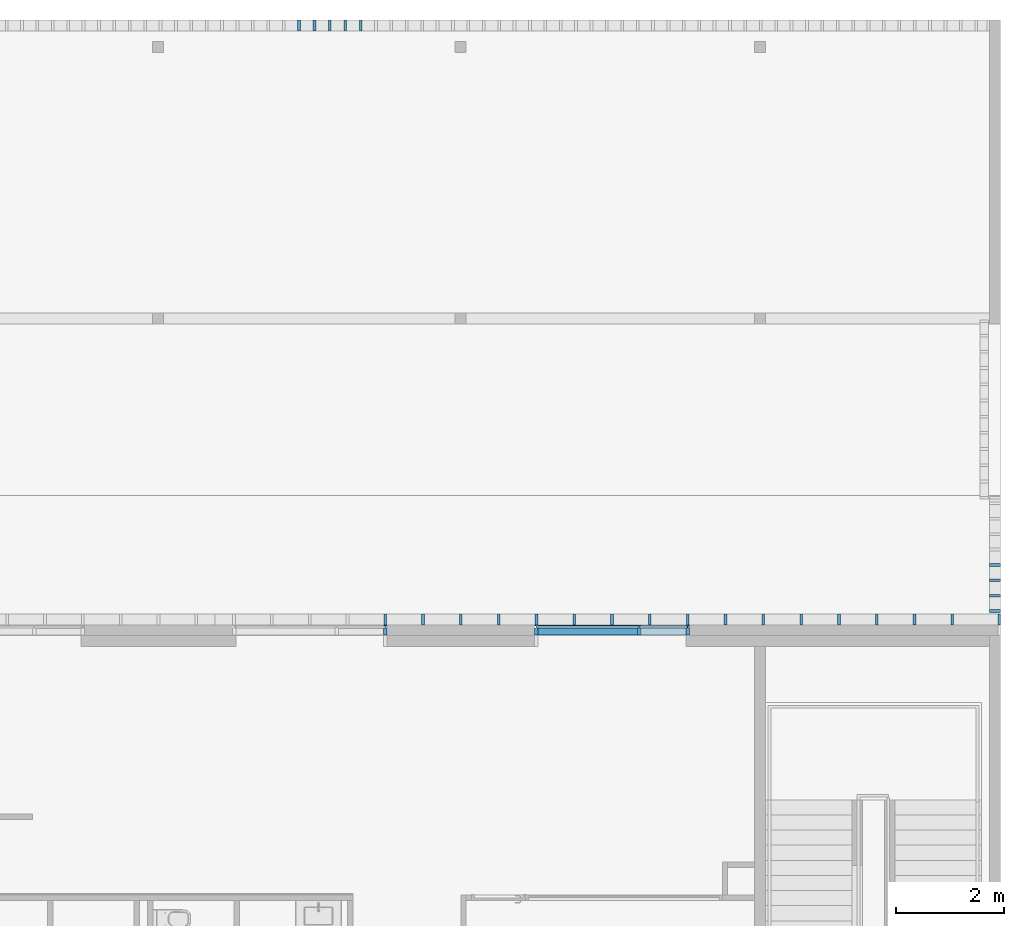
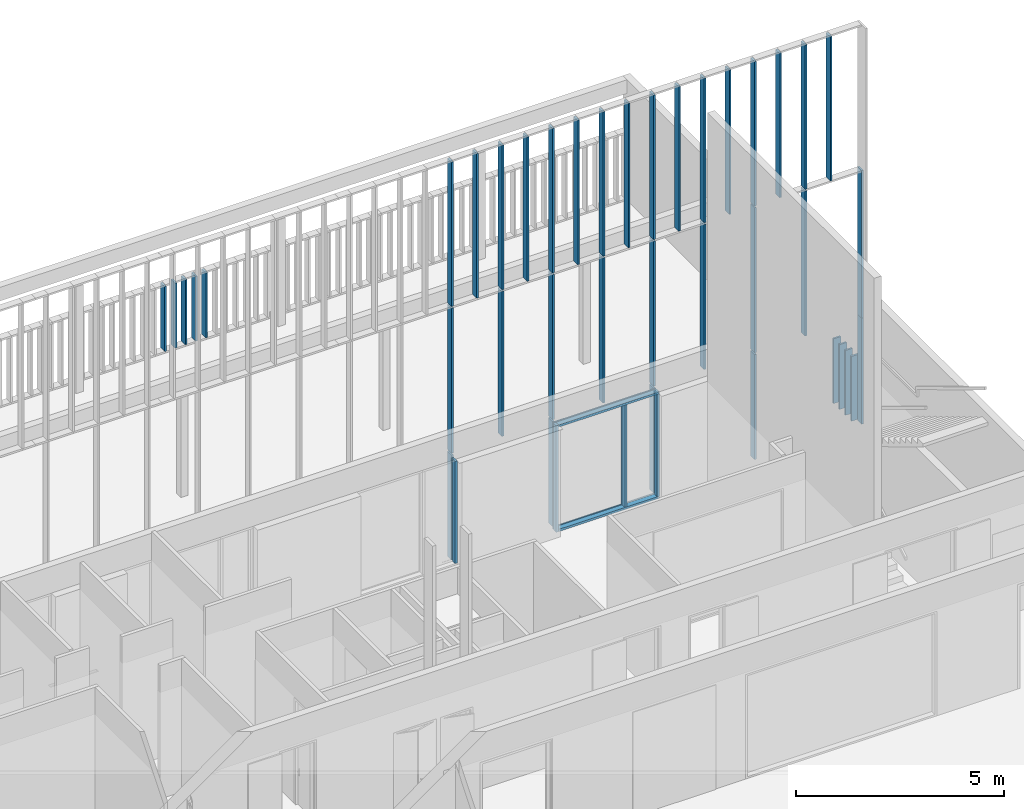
# One storey, part 29 of 240: 47 members, 5 elements without a shape of their own.
"""IFC2X3 building model written with IfcOpenShell, lengths in centimetres."""

from ifc_helpers import new_model, entity, si_unit, converted_unit, derived_unit, direction, frame, origin, origin_2d_with_axis, place, context, subcontext, project, spatial, polyline, rectangle, outline, extrude, source, transform, mapped, material, type_object, type_shapes, element, aggregate, save


model = new_model("IFC2X3")

# Units and contexts
model_context = context("Model", 3, precision=0.001, world=origin(), true_north=direction((6.12303176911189e-17, 1.0)))
body_context = subcontext(model_context, "Body", "Model", "MODEL_VIEW")
ifc_project = project(units=[si_unit("LENGTHUNIT", "METRE", prefix="CENTI"), si_unit("AREAUNIT", "SQUARE_METRE"), si_unit("VOLUMEUNIT", "CUBIC_METRE"), converted_unit("PLANEANGLEUNIT", "DEGREE", entity("IfcRatioMeasure", 0.0174532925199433), si_unit("PLANEANGLEUNIT", "RADIAN"), dimensions=[0, 0, 0, 0, 0, 0, 0]), si_unit("MASSUNIT", "GRAM", prefix="KILO"), derived_unit("MASSDENSITYUNIT", [(si_unit("MASSUNIT", "GRAM", prefix="KILO"), 1), (si_unit("LENGTHUNIT", "METRE"), -3)]), si_unit("TIMEUNIT", "SECOND"), si_unit("FREQUENCYUNIT", "HERTZ"), si_unit("THERMODYNAMICTEMPERATUREUNIT", "DEGREE_CELSIUS"), derived_unit("THERMALTRANSMITTANCEUNIT", [(si_unit("MASSUNIT", "GRAM", prefix="KILO"), 1), (si_unit("THERMODYNAMICTEMPERATUREUNIT", "KELVIN"), -1), (si_unit("TIMEUNIT", "SECOND"), -3)]), derived_unit("VOLUMETRICFLOWRATEUNIT", [(si_unit("LENGTHUNIT", "METRE"), 3), (si_unit("TIMEUNIT", "SECOND"), -1)]), si_unit("ELECTRICCURRENTUNIT", "AMPERE"), si_unit("ELECTRICVOLTAGEUNIT", "VOLT"), si_unit("POWERUNIT", "WATT"), si_unit("FORCEUNIT", "NEWTON", prefix="KILO"), si_unit("ILLUMINANCEUNIT", "LUX"), si_unit("LUMINOUSFLUXUNIT", "LUMEN"), si_unit("LUMINOUSINTENSITYUNIT", "CANDELA"), derived_unit("USERDEFINED", [(si_unit("MASSUNIT", "GRAM", prefix="KILO"), -1), (si_unit("LENGTHUNIT", "METRE"), -2), (si_unit("TIMEUNIT", "SECOND"), 3), (si_unit("LUMINOUSFLUXUNIT", "LUMEN"), 1)]), derived_unit("LINEARVELOCITYUNIT", [(si_unit("LENGTHUNIT", "METRE"), 1), (si_unit("TIMEUNIT", "SECOND"), -1)]), si_unit("PRESSUREUNIT", "PASCAL"), derived_unit("USERDEFINED", [(si_unit("LENGTHUNIT", "METRE"), -2), (si_unit("MASSUNIT", "GRAM", prefix="KILO"), 1), (si_unit("TIMEUNIT", "SECOND"), -2)])], contexts=[model_context])

# Site, building, storey
site_placement = place(None, frame((-2781.94577612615, 7442.24238424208, 0.0)))
site = spatial("IfcSite", under=ifc_project, at=site_placement, Name="Default", CompositionType="ELEMENT")
building_placement = place(site_placement, origin())
building = spatial("IfcBuilding", under=site, at=building_placement, CompositionType="ELEMENT")
storey_placement = place(building_placement, origin())
storey = spatial("IfcBuildingStorey", under=building, at=storey_placement, Name="N00 - COO", CompositionType="ELEMENT", Elevation=0.0)

# Curtain wall, members
curtain_wall_type_1 = type_object("IfcCurtainWallType", Name="Mur-rideau:07 - mur rideau trame 280 cm", PredefinedType="NOTDEFINED")
curtain_wall_1_placement = place(building_placement, origin())
curtain_wall_1 = element("IfcCurtainWall", 1, at=curtain_wall_1_placement, inside=storey, type_object=curtain_wall_type_1, Name="Mur-rideau:07 - mur rideau trame 280 cm", ObjectType="Mur-rideau:07 - mur rideau trame 280 cm")
ifc_material = material(Name="Aluminium")
member_type_1 = type_object("IfcMemberType", Name="150 x 25mm Détails", PredefinedType="MEMBER")
shared_shape_1 = source(origin(), body_context, "Body", "SweptSolid", [
    extrude(outline(polyline([(-5.66666666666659, -3.25), (-3.66666666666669, -3.25), (-3.66666666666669, -0.868749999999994), (-0.166666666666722, -0.868749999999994), (-0.166666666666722, -3.25000000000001), (13.3333333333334, -3.24999999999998), (13.3333333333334, 3.25000000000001), (-0.166666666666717, 3.25000000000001), (-0.166666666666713, 0.868749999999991), (-3.66666666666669, 0.868749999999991), (-3.66666666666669, 3.24999999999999), (-5.66666666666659, 3.24999999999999), (-5.66666666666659, -3.25)])), frame((-3.24999999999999, -1.96666666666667, -280.0), z_axis=(0.0, 0.0, 1.0), x_axis=(0.0, -1.0, 0.0)), (0.0, 0.0, 1.0), 280.00000003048),
])
type_shapes(member_type_1, [shared_shape_1])
member_1_placement = place(building_placement, frame((-966.049882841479, -1073.7999999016, 0.0), z_axis=(1.0, 0.0, 0.0), x_axis=(0.0, 0.0, -1.0)))
member_1 = element("IfcMember", 2, at=member_1_placement, type_object=member_type_1, material=ifc_material, Name="Meneau rectangulaire:150 x 25mm Détails", ObjectType="Meneau rectangulaire:150 x 25mm Détails", context=body_context, shape_type="MappedRepresentation", body=[
    mapped(shared_shape_1, transform((0.0, 0.0, 0.0), scale=1.0)),
])
member_type_2 = type_object("IfcMemberType", Name="150 x 25mm Détails", PredefinedType="MEMBER")
shared_shape_2 = source(origin(), body_context, "Body", "SweptSolid", [
    extrude(outline(polyline([(-5.6666666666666, -3.24999999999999), (-3.66666666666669, -3.24999999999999), (-3.66666666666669, -0.868749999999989), (-0.166666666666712, -0.868749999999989), (-0.166666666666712, -3.25000000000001), (13.3333333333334, -3.25000000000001), (13.3333333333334, 3.24999999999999), (-0.16666666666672, 3.24999999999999), (-0.16666666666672, 0.868749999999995), (-3.66666666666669, 0.868749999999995), (-3.66666666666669, 3.25), (-5.6666666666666, 3.25), (-5.6666666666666, -3.24999999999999)])), frame((-3.24999999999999, -1.96666666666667, -312.5), z_axis=(0.0, 0.0, 1.0), x_axis=(0.0, -1.0, 0.0)), (0.0, 0.0, 1.0), 312.5),
])
type_shapes(member_type_2, [shared_shape_2])
member_2_placement = place(building_placement, frame((-1252.54988284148, -1073.7999999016, 0.0), z_axis=(0.0, 0.0, -1.0), x_axis=(-1.0, 0.0, 0.0)))
member_2 = element("IfcMember", 3, at=member_2_placement, type_object=member_type_2, material=ifc_material, Name="Meneau rectangulaire:150 x 25mm Détails", ObjectType="Meneau rectangulaire:150 x 25mm Détails", context=body_context, shape_type="MappedRepresentation", body=[
    mapped(shared_shape_2, transform((0.0, 0.0, 0.0), scale=1.0)),
])
member_type_3 = type_object("IfcMemberType", Name="150 x 25mm Détails", PredefinedType="MEMBER")
shared_shape_3 = source(origin(), body_context, "Body", "SweptSolid", [
    extrude(outline(polyline([(-5.66666666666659, -3.25), (-3.66666666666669, -3.25), (-3.66666666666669, -0.868749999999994), (-0.166666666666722, -0.868749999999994), (-0.166666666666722, -3.25000000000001), (13.3333333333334, -3.24999999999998), (13.3333333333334, 3.25000000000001), (-0.166666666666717, 3.25000000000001), (-0.166666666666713, 0.868749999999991), (-3.66666666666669, 0.868749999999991), (-3.66666666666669, 3.24999999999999), (-5.66666666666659, 3.24999999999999), (-5.66666666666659, -3.25)])), frame((-3.24999999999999, -1.96666666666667, -299.5), z_axis=(0.0, 0.0, 1.0), x_axis=(0.0, -1.0, 0.0)), (0.0, 0.0, 1.0), 299.5),
])
type_shapes(member_type_3, [shared_shape_3])
member_3_placement = place(building_placement, frame((-966.049882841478, -1073.7999999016, 306.0)))
member_3 = element("IfcMember", 4, at=member_3_placement, type_object=member_type_3, material=ifc_material, Name="Meneau rectangulaire:150 x 25mm Détails", ObjectType="Meneau rectangulaire:150 x 25mm Détails", context=body_context, shape_type="MappedRepresentation", body=[
    mapped(shared_shape_3, transform((0.0, 0.0, 0.0), scale=1.0)),
])
member_4_placement = place(building_placement, frame((-1056.04988284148, -1073.7999999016, 306.0)))
member_4 = element("IfcMember", 5, at=member_4_placement, type_object=member_type_3, material=ifc_material, Name="Meneau rectangulaire:150 x 25mm Détails", ObjectType="Meneau rectangulaire:150 x 25mm Détails", context=body_context, shape_type="MappedRepresentation", body=[
    mapped(shared_shape_3, transform((0.0, 0.0, 0.0), scale=1.0)),
])

# Curtain wall, member
curtain_wall_2_placement = place(building_placement, origin())
curtain_wall_2 = element("IfcCurtainWall", 6, at=curtain_wall_2_placement, inside=storey, type_object=curtain_wall_type_1, Name="Mur-rideau:07 - mur rideau trame 280 cm", ObjectType="Mur-rideau:07 - mur rideau trame 280 cm")
member_5_placement = place(building_placement, frame((-1526.04988284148, -1073.7999999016, 306.0)))
member_5 = element("IfcMember", 7, at=member_5_placement, type_object=member_type_3, material=ifc_material, Name="Meneau rectangulaire:150 x 25mm Détails", ObjectType="Meneau rectangulaire:150 x 25mm Détails", context=body_context, shape_type="MappedRepresentation", body=[
    mapped(shared_shape_3, transform((0.0, 0.0, 0.0), scale=1.0)),
])

# Member
member_type_4 = type_object("IfcMemberType", Name="150 x 25mm Détails", PredefinedType="MEMBER")
shared_shape_4 = source(origin(), body_context, "Body", "SweptSolid", [
    extrude(outline(polyline([(-5.6666666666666, -3.24999999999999), (-3.66666666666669, -3.24999999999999), (-3.66666666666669, -0.868749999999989), (-0.166666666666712, -0.868749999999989), (-0.166666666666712, -3.25000000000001), (13.3333333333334, -3.25000000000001), (13.3333333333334, 3.24999999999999), (-0.16666666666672, 3.24999999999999), (-0.16666666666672, 0.868749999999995), (-3.66666666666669, 0.868749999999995), (-3.66666666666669, 3.25), (-5.6666666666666, 3.25), (-5.6666666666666, -3.24999999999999)])), frame((-3.24999999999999, -1.96666666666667, -299.5), z_axis=(0.0, 0.0, 1.0), x_axis=(0.0, -1.0, 0.0)), (0.0, 0.0, 1.0), 299.5),
])
type_shapes(member_type_4, [shared_shape_4])
member_6_placement = place(building_placement, frame((-972.549882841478, -1073.7999999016, 6.5), z_axis=(0.0, 0.0, -1.0), x_axis=(-1.0, 0.0, 0.0)))
member_6 = element("IfcMember", 8, at=member_6_placement, type_object=member_type_4, material=ifc_material, Name="Meneau rectangulaire:150 x 25mm Détails", ObjectType="Meneau rectangulaire:150 x 25mm Détails", context=body_context, shape_type="MappedRepresentation", body=[
    mapped(shared_shape_4, transform((0.0, 0.0, 0.0), scale=1.0)),
])

member_7_placement = place(building_placement, frame((-1532.54988284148, -1073.7999999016, 6.49999999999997), z_axis=(0.0, 0.0, -1.0), x_axis=(-1.0, 0.0, 0.0)))
member_7 = element("IfcMember", 9, at=member_7_placement, type_object=member_type_4, material=ifc_material, Name="Meneau rectangulaire:150 x 25mm Détails", ObjectType="Meneau rectangulaire:150 x 25mm Détails", context=body_context, shape_type="MappedRepresentation", body=[
    mapped(shared_shape_4, transform((0.0, 0.0, 0.0), scale=1.0)),
])

aggregate(curtain_wall_2, [member_5, member_7])

member_type_5 = type_object("IfcMemberType", Name="150 x 25mm Détails", PredefinedType="MEMBER")
shared_shape_5 = source(origin(), body_context, "Body", "SweptSolid", [
    extrude(outline(polyline([(-5.6666666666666, -3.24999999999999), (-3.66666666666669, -3.24999999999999), (-3.66666666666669, -0.868749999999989), (-0.166666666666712, -0.868749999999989), (-0.166666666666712, -3.25000000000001), (13.3333333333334, -3.25000000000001), (13.3333333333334, 3.24999999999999), (-0.16666666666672, 3.24999999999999), (-0.16666666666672, 0.868749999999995), (-3.66666666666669, 0.868749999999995), (-3.66666666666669, 3.25), (-5.6666666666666, 3.25), (-5.6666666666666, -3.24999999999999)])), frame((-3.24999999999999, -1.96666666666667, -280.0), z_axis=(0.0, 0.0, 1.0), x_axis=(0.0, -1.0, 0.0)), (0.0, 0.0, 1.0), 280.000000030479),
])
type_shapes(member_type_5, [shared_shape_5])
member_8_placement = place(building_placement, frame((-1246.04988287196, -1073.7999999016, 312.5), z_axis=(-1.0, 0.0, 0.0), x_axis=(0.0, 0.0, 1.0)))
member_8 = element("IfcMember", 10, at=member_8_placement, type_object=member_type_5, material=ifc_material, Name="Meneau rectangulaire:150 x 25mm Détails", ObjectType="Meneau rectangulaire:150 x 25mm Détails", context=body_context, shape_type="MappedRepresentation", body=[
    mapped(shared_shape_5, transform((0.0, 0.0, 0.0), scale=1.0)),
])

aggregate(curtain_wall_1, [member_1, member_2, member_3, member_4, member_6, member_8])

# Curtain wall, members
curtain_wall_type_2 = type_object("IfcCurtainWallType", Name="Mur-rideau:SR-Clôture", PredefinedType="NOTDEFINED")
curtain_wall_3_placement = place(building_placement, origin())
curtain_wall_3 = element("IfcCurtainWall", 11, at=curtain_wall_3_placement, inside=storey, type_object=curtain_wall_type_2, Name="Mur-rideau:SR-Clôture", ObjectType="Mur-rideau:SR-Clôture")
member_type_6 = type_object("IfcMemberType", Name="Epine nord (200x50 mm)", PredefinedType="MEMBER")
shared_shape_6 = source(origin(), body_context, "Body", "SweptSolid", [
    extrude(rectangle(XDim=20.0, YDim=5.0, at=origin_2d_with_axis()), frame((0.0, 0.0, -190.0), z_axis=(0.0, 0.0, 1.0), x_axis=(0.0, -1.0, 0.0)), (0.0, 0.0, 1.0), 190.0),
])
type_shapes(member_type_6, [shared_shape_6])
member_9_placement = place(building_placement, frame((-1688.99987965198, 40.0, 5.0), z_axis=(0.0, 0.0, -1.0), x_axis=(1.0, 0.0, 0.0)))
member_9 = element("IfcMember", 12, at=member_9_placement, type_object=member_type_6, material=ifc_material, Name="Meneau rectangulaire:Epine nord (200x50 mm)", ObjectType="Meneau rectangulaire:Epine nord (200x50 mm)", context=body_context, shape_type="MappedRepresentation", body=[
    mapped(shared_shape_6, transform((0.0, 0.0, 0.0), scale=1.0)),
])
member_10_placement = place(building_placement, frame((-1660.49987965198, 40.0, 5.0), z_axis=(0.0, 0.0, -1.0), x_axis=(1.0, 0.0, 0.0)))
member_10 = element("IfcMember", 13, at=member_10_placement, type_object=member_type_6, material=ifc_material, Name="Meneau rectangulaire:Epine nord (200x50 mm)", ObjectType="Meneau rectangulaire:Epine nord (200x50 mm)", context=body_context, shape_type="MappedRepresentation", body=[
    mapped(shared_shape_6, transform((0.0, 0.0, 0.0), scale=1.0)),
])
member_11_placement = place(building_placement, frame((-1631.99987965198, 40.0, 5.0), z_axis=(0.0, 0.0, -1.0), x_axis=(1.0, 0.0, 0.0)))
member_11 = element("IfcMember", 14, at=member_11_placement, type_object=member_type_6, material=ifc_material, Name="Meneau rectangulaire:Epine nord (200x50 mm)", ObjectType="Meneau rectangulaire:Epine nord (200x50 mm)", context=body_context, shape_type="MappedRepresentation", body=[
    mapped(shared_shape_6, transform((0.0, 0.0, 0.0), scale=1.0)),
])
member_12_placement = place(building_placement, frame((-1603.49987965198, 40.0, 5.0), z_axis=(0.0, 0.0, -1.0), x_axis=(1.0, 0.0, 0.0)))
member_12 = element("IfcMember", 15, at=member_12_placement, type_object=member_type_6, material=ifc_material, Name="Meneau rectangulaire:Epine nord (200x50 mm)", ObjectType="Meneau rectangulaire:Epine nord (200x50 mm)", context=body_context, shape_type="MappedRepresentation", body=[
    mapped(shared_shape_6, transform((0.0, 0.0, 0.0), scale=1.0)),
])
member_13_placement = place(building_placement, frame((-1574.99987965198, 40.0, 5.0), z_axis=(0.0, 0.0, -1.0), x_axis=(1.0, 0.0, 0.0)))
member_13 = element("IfcMember", 16, at=member_13_placement, type_object=member_type_6, material=ifc_material, Name="Meneau rectangulaire:Epine nord (200x50 mm)", ObjectType="Meneau rectangulaire:Epine nord (200x50 mm)", context=body_context, shape_type="MappedRepresentation", body=[
    mapped(shared_shape_6, transform((0.0, 0.0, 0.0), scale=1.0)),
])
aggregate(curtain_wall_3, [member_9, member_10, member_11, member_12, member_13])

curtain_wall_4_placement = place(building_placement, origin())
curtain_wall_4 = element("IfcCurtainWall", 17, at=curtain_wall_4_placement, inside=storey, type_object=curtain_wall_type_2, Name="Mur-rideau:SR-Clôture", ObjectType="Mur-rideau:SR-Clôture")
member_14_placement = place(building_placement, frame((-399.999882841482, -1016.04850095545, 5.0), z_axis=(0.0, 0.0, -1.0), x_axis=(0.0, 1.0, 0.0)))
member_14 = element("IfcMember", 18, at=member_14_placement, type_object=member_type_6, material=ifc_material, Name="Meneau rectangulaire:Epine nord (200x50 mm)", ObjectType="Meneau rectangulaire:Epine nord (200x50 mm)", context=body_context, shape_type="MappedRepresentation", body=[
    mapped(shared_shape_6, transform((0.0, 0.0, 0.0), scale=1.0)),
])
member_15_placement = place(building_placement, frame((-399.999882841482, -987.548500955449, 5.0), z_axis=(0.0, 0.0, -1.0), x_axis=(0.0, 1.0, 0.0)))
member_15 = element("IfcMember", 19, at=member_15_placement, type_object=member_type_6, material=ifc_material, Name="Meneau rectangulaire:Epine nord (200x50 mm)", ObjectType="Meneau rectangulaire:Epine nord (200x50 mm)", context=body_context, shape_type="MappedRepresentation", body=[
    mapped(shared_shape_6, transform((0.0, 0.0, 0.0), scale=1.0)),
])
member_16_placement = place(building_placement, frame((-399.999882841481, -959.048500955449, 5.0), z_axis=(0.0, 0.0, -1.0), x_axis=(0.0, 1.0, 0.0)))
member_16 = element("IfcMember", 20, at=member_16_placement, type_object=member_type_6, material=ifc_material, Name="Meneau rectangulaire:Epine nord (200x50 mm)", ObjectType="Meneau rectangulaire:Epine nord (200x50 mm)", context=body_context, shape_type="MappedRepresentation", body=[
    mapped(shared_shape_6, transform((0.0, 0.0, 0.0), scale=1.0)),
])
member_type_7 = type_object("IfcMemberType", Name="Epine nord (200x50 mm)", PredefinedType="MEMBER")
shared_shape_7 = source(origin(), body_context, "Body", "SweptSolid", [
    extrude(rectangle(XDim=20.0, YDim=5.0, at=origin_2d_with_axis()), frame((-2.5, 0.0, -190.0), z_axis=(0.0, 0.0, 1.0), x_axis=(0.0, -1.0, 0.0)), (0.0, 0.0, 1.0), 190.0),
])
type_shapes(member_type_7, [shared_shape_7])
member_17_placement = place(building_placement, frame((-399.999882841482, -1047.04850098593, 195.0), z_axis=(0.0, 0.0, 1.0), x_axis=(0.0, -1.0, 0.0)))
member_17 = element("IfcMember", 21, at=member_17_placement, type_object=member_type_7, material=ifc_material, Name="Meneau rectangulaire:Epine nord (200x50 mm)", ObjectType="Meneau rectangulaire:Epine nord (200x50 mm)", context=body_context, shape_type="MappedRepresentation", body=[
    mapped(shared_shape_7, transform((0.0, 0.0, 0.0), scale=1.0)),
])
aggregate(curtain_wall_4, [member_17, member_14, member_15, member_16])

curtain_wall_type_3 = type_object("IfcCurtainWallType", Name="Mur-rideau:Epines - 200x30mm", PredefinedType="NOTDEFINED")
curtain_wall_5_placement = place(storey_placement, origin())
curtain_wall_5 = element("IfcCurtainWall", 22, at=curtain_wall_5_placement, inside=storey, type_object=curtain_wall_type_3, Name="Mur-rideau:Epines - 200x30mm", ObjectType="Mur-rideau:Epines - 200x30mm")
member_type_8 = type_object("IfcMemberType", Name="200x50 mm nord", PredefinedType="MEMBER")
shared_shape_8 = source(origin(), body_context, "Body", "SweptSolid", [
    extrude(rectangle(XDim=20.0, YDim=5.0, at=origin_2d_with_axis()), frame((0.0, 0.0, -423.0), z_axis=(0.0, 0.0, 1.0), x_axis=(0.0, -1.0, 0.0)), (0.0, 0.0, 1.0), 423.000000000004),
])
type_shapes(member_type_8, [shared_shape_8])
member_18_placement = place(storey_placement, frame((-689.29988284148, -1060.0, 748.0), z_axis=(0.0, 0.0, -1.0), x_axis=(1.0, 0.0, 0.0)))
member_18 = element("IfcMember", 23, at=member_18_placement, type_object=member_type_8, material=ifc_material, Name="Meneau rectangulaire:200x50 mm nord", ObjectType="Meneau rectangulaire:200x50 mm nord", context=body_context, shape_type="MappedRepresentation", body=[
    mapped(shared_shape_8, transform((0.0, 0.0, 0.0), scale=1.0)),
])
member_19_placement = place(storey_placement, frame((-969.29988284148, -1060.0, 748.0), z_axis=(0.0, 0.0, -1.0), x_axis=(1.0, 0.0, 0.0)))
member_19 = element("IfcMember", 24, at=member_19_placement, type_object=member_type_8, material=ifc_material, Name="Meneau rectangulaire:200x50 mm nord", ObjectType="Meneau rectangulaire:200x50 mm nord", context=body_context, shape_type="MappedRepresentation", body=[
    mapped(shared_shape_8, transform((0.0, 0.0, 0.0), scale=1.0)),
])
member_20_placement = place(storey_placement, frame((-1249.29988284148, -1060.0, 748.0), z_axis=(0.0, 0.0, -1.0), x_axis=(1.0, 0.0, 0.0)))
member_20 = element("IfcMember", 25, at=member_20_placement, type_object=member_type_8, material=ifc_material, Name="Meneau rectangulaire:200x50 mm nord", ObjectType="Meneau rectangulaire:200x50 mm nord", context=body_context, shape_type="MappedRepresentation", body=[
    mapped(shared_shape_8, transform((0.0, 0.0, 0.0), scale=1.0)),
])
member_21_placement = place(storey_placement, frame((-1529.29988284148, -1060.0, 748.0), z_axis=(0.0, 0.0, -1.0), x_axis=(1.0, 0.0, 0.0)))
member_21 = element("IfcMember", 26, at=member_21_placement, type_object=member_type_8, material=ifc_material, Name="Meneau rectangulaire:200x50 mm nord", ObjectType="Meneau rectangulaire:200x50 mm nord", context=body_context, shape_type="MappedRepresentation", body=[
    mapped(shared_shape_8, transform((0.0, 0.0, 0.0), scale=1.0)),
])
member_22_placement = place(storey_placement, frame((-1109.29988284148, -1060.0, 748.0), z_axis=(0.0, 0.0, -1.0), x_axis=(1.0, 0.0, 0.0)))
member_22 = element("IfcMember", 27, at=member_22_placement, type_object=member_type_8, material=ifc_material, Name="Meneau rectangulaire:200x50 mm nord", ObjectType="Meneau rectangulaire:200x50 mm nord", context=body_context, shape_type="MappedRepresentation", body=[
    mapped(shared_shape_8, transform((0.0, 0.0, 0.0), scale=1.0)),
])
member_23_placement = place(storey_placement, frame((-829.29988284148, -1060.0, 748.0), z_axis=(0.0, 0.0, -1.0), x_axis=(1.0, 0.0, 0.0)))
member_23 = element("IfcMember", 28, at=member_23_placement, type_object=member_type_8, material=ifc_material, Name="Meneau rectangulaire:200x50 mm nord", ObjectType="Meneau rectangulaire:200x50 mm nord", context=body_context, shape_type="MappedRepresentation", body=[
    mapped(shared_shape_8, transform((0.0, 0.0, 0.0), scale=1.0)),
])
member_24_placement = place(storey_placement, frame((-549.29988284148, -1060.0, 748.0), z_axis=(0.0, 0.0, -1.0), x_axis=(1.0, 0.0, 0.0)))
member_24 = element("IfcMember", 29, at=member_24_placement, type_object=member_type_8, material=ifc_material, Name="Meneau rectangulaire:200x50 mm nord", ObjectType="Meneau rectangulaire:200x50 mm nord", context=body_context, shape_type="MappedRepresentation", body=[
    mapped(shared_shape_8, transform((0.0, 0.0, 0.0), scale=1.0)),
])
member_25_placement = place(storey_placement, frame((-1389.29988284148, -1060.0, 748.0), z_axis=(0.0, 0.0, -1.0), x_axis=(1.0, 0.0, 0.0)))
member_25 = element("IfcMember", 30, at=member_25_placement, type_object=member_type_8, material=ifc_material, Name="Meneau rectangulaire:200x50 mm nord", ObjectType="Meneau rectangulaire:200x50 mm nord", context=body_context, shape_type="MappedRepresentation", body=[
    mapped(shared_shape_8, transform((0.0, 0.0, 0.0), scale=1.0)),
])
member_26_placement = place(storey_placement, frame((-479.299882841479, -1060.0, 748.0), z_axis=(0.0, 0.0, -1.0), x_axis=(1.0, 0.0, 0.0)))
member_26 = element("IfcMember", 31, at=member_26_placement, type_object=member_type_8, material=ifc_material, Name="Meneau rectangulaire:200x50 mm nord", ObjectType="Meneau rectangulaire:200x50 mm nord", context=body_context, shape_type="MappedRepresentation", body=[
    mapped(shared_shape_8, transform((0.0, 0.0, 0.0), scale=1.0)),
])
member_27_placement = place(storey_placement, frame((-619.29988284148, -1060.0, 748.0), z_axis=(0.0, 0.0, -1.0), x_axis=(1.0, 0.0, 0.0)))
member_27 = element("IfcMember", 32, at=member_27_placement, type_object=member_type_8, material=ifc_material, Name="Meneau rectangulaire:200x50 mm nord", ObjectType="Meneau rectangulaire:200x50 mm nord", context=body_context, shape_type="MappedRepresentation", body=[
    mapped(shared_shape_8, transform((0.0, 0.0, 0.0), scale=1.0)),
])
member_28_placement = place(storey_placement, frame((-759.299882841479, -1060.0, 748.0), z_axis=(0.0, 0.0, -1.0), x_axis=(1.0, 0.0, 0.0)))
member_28 = element("IfcMember", 33, at=member_28_placement, type_object=member_type_8, material=ifc_material, Name="Meneau rectangulaire:200x50 mm nord", ObjectType="Meneau rectangulaire:200x50 mm nord", context=body_context, shape_type="MappedRepresentation", body=[
    mapped(shared_shape_8, transform((0.0, 0.0, 0.0), scale=1.0)),
])
member_29_placement = place(storey_placement, frame((-899.29988284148, -1060.0, 748.0), z_axis=(0.0, 0.0, -1.0), x_axis=(1.0, 0.0, 0.0)))
member_29 = element("IfcMember", 34, at=member_29_placement, type_object=member_type_8, material=ifc_material, Name="Meneau rectangulaire:200x50 mm nord", ObjectType="Meneau rectangulaire:200x50 mm nord", context=body_context, shape_type="MappedRepresentation", body=[
    mapped(shared_shape_8, transform((0.0, 0.0, 0.0), scale=1.0)),
])
member_30_placement = place(storey_placement, frame((-1039.29988284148, -1060.0, 748.0), z_axis=(0.0, 0.0, -1.0), x_axis=(1.0, 0.0, 0.0)))
member_30 = element("IfcMember", 35, at=member_30_placement, type_object=member_type_8, material=ifc_material, Name="Meneau rectangulaire:200x50 mm nord", ObjectType="Meneau rectangulaire:200x50 mm nord", context=body_context, shape_type="MappedRepresentation", body=[
    mapped(shared_shape_8, transform((0.0, 0.0, 0.0), scale=1.0)),
])
member_31_placement = place(storey_placement, frame((-1179.29988284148, -1060.0, 748.0), z_axis=(0.0, 0.0, -1.0), x_axis=(1.0, 0.0, 0.0)))
member_31 = element("IfcMember", 36, at=member_31_placement, type_object=member_type_8, material=ifc_material, Name="Meneau rectangulaire:200x50 mm nord", ObjectType="Meneau rectangulaire:200x50 mm nord", context=body_context, shape_type="MappedRepresentation", body=[
    mapped(shared_shape_8, transform((0.0, 0.0, 0.0), scale=1.0)),
])
member_32_placement = place(storey_placement, frame((-1319.29988284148, -1060.0, 748.0), z_axis=(0.0, 0.0, -1.0), x_axis=(1.0, 0.0, 0.0)))
member_32 = element("IfcMember", 37, at=member_32_placement, type_object=member_type_8, material=ifc_material, Name="Meneau rectangulaire:200x50 mm nord", ObjectType="Meneau rectangulaire:200x50 mm nord", context=body_context, shape_type="MappedRepresentation", body=[
    mapped(shared_shape_8, transform((0.0, 0.0, 0.0), scale=1.0)),
])
member_33_placement = place(storey_placement, frame((-1459.29988284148, -1060.0, 748.0), z_axis=(0.0, 0.0, -1.0), x_axis=(1.0, 0.0, 0.0)))
member_33 = element("IfcMember", 38, at=member_33_placement, type_object=member_type_8, material=ifc_material, Name="Meneau rectangulaire:200x50 mm nord", ObjectType="Meneau rectangulaire:200x50 mm nord", context=body_context, shape_type="MappedRepresentation", body=[
    mapped(shared_shape_8, transform((0.0, 0.0, 0.0), scale=1.0)),
])
member_type_9 = type_object("IfcMemberType", Name="200x50 mm nord", PredefinedType="MEMBER")
shared_shape_9 = source(origin(), body_context, "Body", "SweptSolid", [
    extrude(rectangle(XDim=20.0, YDim=5.0, at=origin_2d_with_axis()), frame((0.0, 0.0, -425.0), z_axis=(0.0, 0.0, 1.0), x_axis=(0.0, -1.0, 0.0)), (0.0, 0.0, 1.0), 425.0),
])
type_shapes(member_type_9, [shared_shape_9])
member_34_placement = place(storey_placement, frame((-689.29988284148, -1060.0, 318.0), z_axis=(0.0, 0.0, -1.0), x_axis=(1.0, 0.0, 0.0)))
member_34 = element("IfcMember", 39, at=member_34_placement, type_object=member_type_9, material=ifc_material, Name="Meneau rectangulaire:200x50 mm nord", ObjectType="Meneau rectangulaire:200x50 mm nord", context=body_context, shape_type="MappedRepresentation", body=[
    mapped(shared_shape_9, transform((0.0, 0.0, 0.0), scale=1.0)),
])
member_35_placement = place(storey_placement, frame((-969.29988284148, -1060.0, 318.0), z_axis=(0.0, 0.0, -1.0), x_axis=(1.0, 0.0, 0.0)))
member_35 = element("IfcMember", 40, at=member_35_placement, type_object=member_type_9, material=ifc_material, Name="Meneau rectangulaire:200x50 mm nord", ObjectType="Meneau rectangulaire:200x50 mm nord", context=body_context, shape_type="MappedRepresentation", body=[
    mapped(shared_shape_9, transform((0.0, 0.0, 0.0), scale=1.0)),
])
member_36_placement = place(storey_placement, frame((-1249.29988284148, -1060.0, 318.0), z_axis=(0.0, 0.0, -1.0), x_axis=(1.0, 0.0, 0.0)))
member_36 = element("IfcMember", 41, at=member_36_placement, type_object=member_type_9, material=ifc_material, Name="Meneau rectangulaire:200x50 mm nord", ObjectType="Meneau rectangulaire:200x50 mm nord", context=body_context, shape_type="MappedRepresentation", body=[
    mapped(shared_shape_9, transform((0.0, 0.0, 0.0), scale=1.0)),
])
member_37_placement = place(storey_placement, frame((-1529.29988284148, -1060.0, 318.0), z_axis=(0.0, 0.0, -1.0), x_axis=(1.0, 0.0, 0.0)))
member_37 = element("IfcMember", 42, at=member_37_placement, type_object=member_type_9, material=ifc_material, Name="Meneau rectangulaire:200x50 mm nord", ObjectType="Meneau rectangulaire:200x50 mm nord", context=body_context, shape_type="MappedRepresentation", body=[
    mapped(shared_shape_9, transform((0.0, 0.0, 0.0), scale=1.0)),
])
member_38_placement = place(storey_placement, frame((-549.29988284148, -1060.0, 318.0), z_axis=(0.0, 0.0, -1.0), x_axis=(1.0, 0.0, 0.0)))
member_38 = element("IfcMember", 43, at=member_38_placement, type_object=member_type_9, material=ifc_material, Name="Meneau rectangulaire:200x50 mm nord", ObjectType="Meneau rectangulaire:200x50 mm nord", context=body_context, shape_type="MappedRepresentation", body=[
    mapped(shared_shape_9, transform((0.0, 0.0, 0.0), scale=1.0)),
])
member_39_placement = place(storey_placement, frame((-829.29988284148, -1060.0, 318.0), z_axis=(0.0, 0.0, -1.0), x_axis=(1.0, 0.0, 0.0)))
member_39 = element("IfcMember", 44, at=member_39_placement, type_object=member_type_9, material=ifc_material, Name="Meneau rectangulaire:200x50 mm nord", ObjectType="Meneau rectangulaire:200x50 mm nord", context=body_context, shape_type="MappedRepresentation", body=[
    mapped(shared_shape_9, transform((0.0, 0.0, 0.0), scale=1.0)),
])
member_40_placement = place(storey_placement, frame((-1109.29988284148, -1060.0, 318.0), z_axis=(0.0, 0.0, -1.0), x_axis=(1.0, 0.0, 0.0)))
member_40 = element("IfcMember", 45, at=member_40_placement, type_object=member_type_9, material=ifc_material, Name="Meneau rectangulaire:200x50 mm nord", ObjectType="Meneau rectangulaire:200x50 mm nord", context=body_context, shape_type="MappedRepresentation", body=[
    mapped(shared_shape_9, transform((0.0, 0.0, 0.0), scale=1.0)),
])
member_41_placement = place(storey_placement, frame((-1389.29988284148, -1060.0, 318.0), z_axis=(0.0, 0.0, -1.0), x_axis=(1.0, 0.0, 0.0)))
member_41 = element("IfcMember", 46, at=member_41_placement, type_object=member_type_9, material=ifc_material, Name="Meneau rectangulaire:200x50 mm nord", ObjectType="Meneau rectangulaire:200x50 mm nord", context=body_context, shape_type="MappedRepresentation", body=[
    mapped(shared_shape_9, transform((0.0, 0.0, 0.0), scale=1.0)),
])
member_type_10 = type_object("IfcMemberType", Name="200x50 mm nord", PredefinedType="MEMBER")
shared_shape_10 = source(origin(), body_context, "Body", "SweptSolid", [
    extrude(rectangle(XDim=20.0, YDim=5.0, at=origin_2d_with_axis()), frame((0.0, 0.0, -308.0), z_axis=(0.0, 0.0, 1.0), x_axis=(0.0, -1.0, 0.0)), (0.0, 0.0, 1.0), 308.0),
])
type_shapes(member_type_10, [shared_shape_10])
member_42_placement = place(storey_placement, frame((-689.29988284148, -1060.0, 5.0), z_axis=(0.0, 0.0, -1.0), x_axis=(1.0, 0.0, 0.0)))
member_42 = element("IfcMember", 47, at=member_42_placement, type_object=member_type_10, material=ifc_material, Name="Meneau rectangulaire:200x50 mm nord", ObjectType="Meneau rectangulaire:200x50 mm nord", context=body_context, shape_type="MappedRepresentation", body=[
    mapped(shared_shape_10, transform((0.0, 0.0, 0.0), scale=1.0)),
])
member_43_placement = place(storey_placement, frame((-969.29988284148, -1060.0, 5.0), z_axis=(0.0, 0.0, -1.0), x_axis=(1.0, 0.0, 0.0)))
member_43 = element("IfcMember", 48, at=member_43_placement, type_object=member_type_10, material=ifc_material, Name="Meneau rectangulaire:200x50 mm nord", ObjectType="Meneau rectangulaire:200x50 mm nord", context=body_context, shape_type="MappedRepresentation", body=[
    mapped(shared_shape_10, transform((0.0, 0.0, 0.0), scale=1.0)),
])
member_44_placement = place(storey_placement, frame((-1249.29988284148, -1060.0, 5.0), z_axis=(0.0, 0.0, -1.0), x_axis=(1.0, 0.0, 0.0)))
member_44 = element("IfcMember", 49, at=member_44_placement, type_object=member_type_10, material=ifc_material, Name="Meneau rectangulaire:200x50 mm nord", ObjectType="Meneau rectangulaire:200x50 mm nord", context=body_context, shape_type="MappedRepresentation", body=[
    mapped(shared_shape_10, transform((0.0, 0.0, 0.0), scale=1.0)),
])
member_45_placement = place(storey_placement, frame((-1529.29988284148, -1060.0, 5.0), z_axis=(0.0, 0.0, -1.0), x_axis=(1.0, 0.0, 0.0)))
member_45 = element("IfcMember", 50, at=member_45_placement, type_object=member_type_10, material=ifc_material, Name="Meneau rectangulaire:200x50 mm nord", ObjectType="Meneau rectangulaire:200x50 mm nord", context=body_context, shape_type="MappedRepresentation", body=[
    mapped(shared_shape_10, transform((0.0, 0.0, 0.0), scale=1.0)),
])
member_type_11 = type_object("IfcMemberType", Name="200x50 mm nord", PredefinedType="MEMBER")
shared_shape_11 = source(origin(), body_context, "Body", "SweptSolid", [
    extrude(rectangle(XDim=20.0, YDim=5.0, at=origin_2d_with_axis()), frame((-2.5, 0.0, -432.5), z_axis=(0.0, 0.0, 1.0), x_axis=(0.0, -1.0, 0.0)), (0.0, 0.0, 1.0), 432.5),
])
type_shapes(member_type_11, [shared_shape_11])
member_46_placement = place(storey_placement, frame((-389.999879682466, -1060.0, 315.5), z_axis=(0.0, 0.0, -1.0), x_axis=(1.0, 0.0, 0.0)))
member_46 = element("IfcMember", 51, at=member_46_placement, type_object=member_type_11, material=ifc_material, Name="Meneau rectangulaire:200x50 mm nord", ObjectType="Meneau rectangulaire:200x50 mm nord", context=body_context, shape_type="MappedRepresentation", body=[
    mapped(shared_shape_11, transform((0.0, 0.0, 0.0), scale=1.0)),
])
member_type_12 = type_object("IfcMemberType", Name="200x50 mm nord", PredefinedType="MEMBER")
shared_shape_12 = source(origin(), body_context, "Body", "SweptSolid", [
    extrude(rectangle(XDim=20.0, YDim=5.0, at=origin_2d_with_axis()), frame((-2.5, 0.0, -310.5), z_axis=(0.0, 0.0, 1.0), x_axis=(0.0, -1.0, 0.0)), (0.0, 0.0, 1.0), 310.5),
])
type_shapes(member_type_12, [shared_shape_12])
member_47_placement = place(storey_placement, frame((-389.999879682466, -1060.0, 5.0), z_axis=(0.0, 0.0, -1.0), x_axis=(1.0, 0.0, 0.0)))
member_47 = element("IfcMember", 52, at=member_47_placement, type_object=member_type_12, material=ifc_material, Name="Meneau rectangulaire:200x50 mm nord", ObjectType="Meneau rectangulaire:200x50 mm nord", context=body_context, shape_type="MappedRepresentation", body=[
    mapped(shared_shape_12, transform((0.0, 0.0, 0.0), scale=1.0)),
])
aggregate(curtain_wall_5, [member_18, member_34, member_42, member_19, member_35, member_43, member_20, member_36, member_44, member_21, member_37, member_45, member_46, member_47, member_38, member_39, member_40, member_22, member_23, member_24, member_25, member_41, member_26, member_27, member_28, member_29, member_30, member_31, member_32, member_33])

save(model, "model.ifc")
